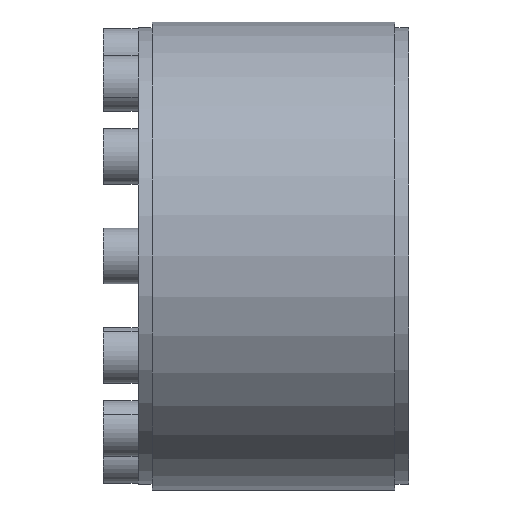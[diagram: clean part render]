
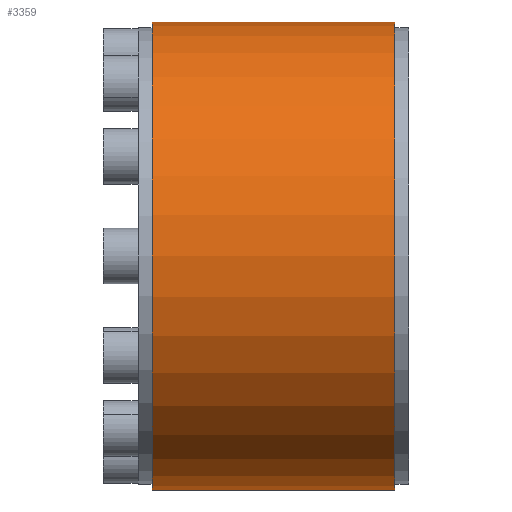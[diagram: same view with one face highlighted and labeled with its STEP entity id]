
A CAD part, front view. The second image highlights one B-rep face of the part: STEP entity #3359.
In plain terms, the highlighted cylindrical face has radius 67.5 mm (diameter 135 mm), a partial arc.
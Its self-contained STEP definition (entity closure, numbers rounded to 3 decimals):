
#2 = VERTEX_POINT ( 'NONE', #5486 ) ;
#7 = VERTEX_POINT ( 'NONE', #5480 ) ;
#65 = VERTEX_POINT ( 'NONE', #5315 ) ;
#67 = VERTEX_POINT ( 'NONE', #5314 ) ;
#256 = EDGE_CURVE ( 'NONE', #67, #2, #5937, .T. ) ;
#258 = EDGE_CURVE ( 'NONE', #65, #7, #5933, .T. ) ;
#3337 = ORIENTED_EDGE ( 'NONE', *, *, #3380, .T. ) ;
#3340 = ORIENTED_EDGE ( 'NONE', *, *, #258, .T. ) ;
#3342 = ORIENTED_EDGE ( 'NONE', *, *, #3344, .F. ) ;
#3344 = EDGE_CURVE ( 'NONE', #2, #7, #6770, .T. ) ;
#3359 = ADVANCED_FACE ( 'NONE', ( #6746 ), #6745, .T. ) ;
#3361 = EDGE_LOOP ( 'NONE', ( #3363, #3337, #3340, #3342 ) ) ;
#3363 = ORIENTED_EDGE ( 'NONE', *, *, #256, .F. ) ;
#3380 = EDGE_CURVE ( 'NONE', #67, #65, #7126, .T. ) ;
#5314 = CARTESIAN_POINT ( 'NONE',  ( 74., 0., -67.5 ) ) ;
#5315 = CARTESIAN_POINT ( 'NONE',  ( 74., 0., 67.5 ) ) ;
#5480 = CARTESIAN_POINT ( 'NONE',  ( 4., 0., 67.5 ) ) ;
#5486 = CARTESIAN_POINT ( 'NONE',  ( 4., 0., -67.5 ) ) ;
#5930 = DIRECTION ( 'NONE',  ( -1., 0., 0. ) ) ;
#5931 = VECTOR ( 'NONE', #5930, 1000. ) ;
#5932 = CARTESIAN_POINT ( 'NONE',  ( 0., 0., 67.5 ) ) ;
#5933 = LINE ( 'NONE', #5932, #5931 ) ;
#5934 = DIRECTION ( 'NONE',  ( -1., 0., 0. ) ) ;
#5935 = VECTOR ( 'NONE', #5934, 1000. ) ;
#5936 = CARTESIAN_POINT ( 'NONE',  ( 0., 0., -67.5 ) ) ;
#5937 = LINE ( 'NONE', #5936, #5935 ) ;
#6739 = DIRECTION ( 'NONE',  ( 0., 0., 1. ) ) ;
#6740 = DIRECTION ( 'NONE',  ( -1., 0., 0. ) ) ;
#6741 = AXIS2_PLACEMENT_3D ( 'NONE', #6744, #6740, #6739 ) ;
#6744 = CARTESIAN_POINT ( 'NONE',  ( 0., 0., 0. ) ) ;
#6745 = CYLINDRICAL_SURFACE ( 'NONE', #6741, 67.5 ) ;
#6746 = FACE_OUTER_BOUND ( 'NONE', #3361, .T. ) ;
#6766 = DIRECTION ( 'NONE',  ( 0., 0., 1. ) ) ;
#6767 = DIRECTION ( 'NONE',  ( -1., 0., 0. ) ) ;
#6768 = CARTESIAN_POINT ( 'NONE',  ( 4., 0., 0. ) ) ;
#6769 = AXIS2_PLACEMENT_3D ( 'NONE', #6768, #6767, #6766 ) ;
#6770 = CIRCLE ( 'NONE', #6769, 67.5 ) ;
#6996 = DIRECTION ( 'NONE',  ( 0., 0., 1. ) ) ;
#6997 = DIRECTION ( 'NONE',  ( -1., 0., 0. ) ) ;
#6998 = CARTESIAN_POINT ( 'NONE',  ( 74., 0., 0. ) ) ;
#7125 = AXIS2_PLACEMENT_3D ( 'NONE', #6998, #6997, #6996 ) ;
#7126 = CIRCLE ( 'NONE', #7125, 67.5 ) ;
